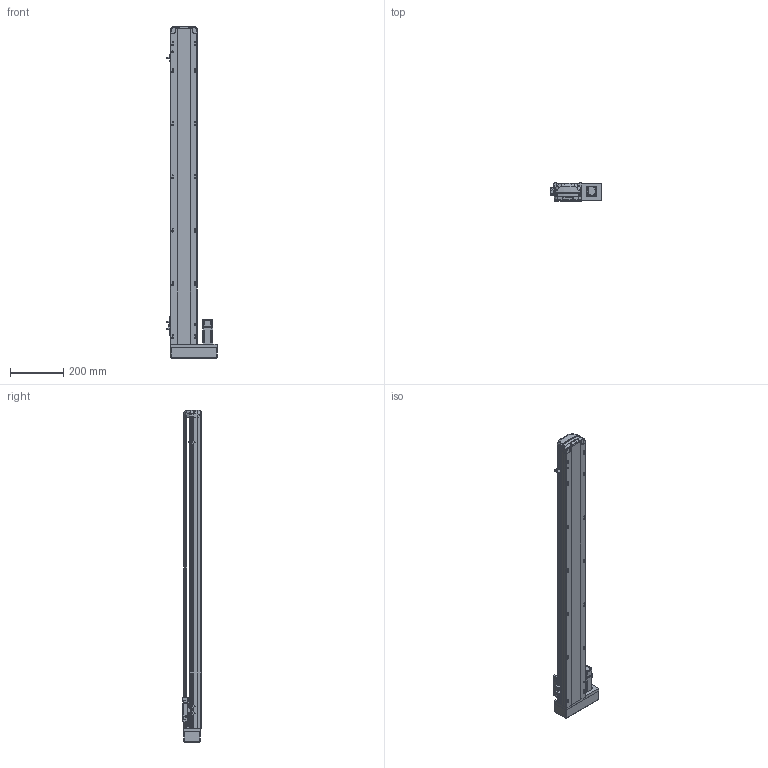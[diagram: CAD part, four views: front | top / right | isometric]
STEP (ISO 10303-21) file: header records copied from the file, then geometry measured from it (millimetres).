
FILE_DESCRIPTION (( 'STEP AP214' ), '1' );
FILE_NAME ('RTH10-XX-1000-R-M10-C4.STEP', '2025-10-25T05:57:30', ( 'Microsoft' ), ( 'Microsoft' ), 'SwSTEP 2.0', 'SolidWorks 2018', '' );
FILE_SCHEMA (( 'AUTOMOTIVE_DESIGN' ));
Length unit declared in the file: millimetre
Products named in the file (10): N_RTH12-M-007P-奻裔^RTH10-XX-100-R-M10-C4; N_P10^RTH10-XX-100-R-M10-C4; RTH10-XX-1000-R-M10-C4; N_RTH12-M-011P-臏倰第菁釱^RTH10-XX-100-R-M10-C4; N_RTH13-L-012覜茼え俋离^RTH10-XX-100-R-M10-C4; N_RTH12-GY-001P^RTH10-XX-100-R-M10-C4; N_RTH12-L-018-裔赽^RTH10-XX-100-R-M10-C4; N_RTH12-L-008萇儂啣^RTH10-XX-100-R-M10-C4; N_RTH12-GY-004-賑釱^RTH10-XX-100-R-M10-C4; N_OMRON EE-SX672 传感器^RTH10-XX-100-R-M10-C4
Assembly tree (11 placements, depth 2):
  RTH10-XX-1000-R-M10-C4
    N_RTH12-M-011P-臏倰第菁釱^RTH10-XX-100-R-M10-C4
    N_RTH13-L-012覜茼え俋离^RTH10-XX-100-R-M10-C4
    N_OMRON EE-SX672 传感器^RTH10-XX-100-R-M10-C4  x3
    N_P10^RTH10-XX-100-R-M10-C4
    N_RTH12-M-007P-奻裔^RTH10-XX-100-R-M10-C4
    N_RTH12-L-008萇儂啣^RTH10-XX-100-R-M10-C4
    N_RTH12-L-018-裔赽^RTH10-XX-100-R-M10-C4
    N_RTH12-GY-004-賑釱^RTH10-XX-100-R-M10-C4
    N_RTH12-GY-001P^RTH10-XX-100-R-M10-C4
Bounding box: 190 x 70 x 1247.31 mm (x, y, z)
Volume: 5212815.5 mm3; surface area: 791741.1 mm2
Topology: 10 solids, 12 shells, 1960 faces, 5488 edges, 3601 vertices
Faces by surface type: plane 955, cylinder 498, bspline 472, cone 29, sphere 4, torus 2
Entity records: 59392 total; most frequent: CARTESIAN_POINT 23529, ORIENTED_EDGE 8048, DIRECTION 6210, EDGE_CURVE 4030, VERTEX_POINT 2645, VECTOR 2094, LINE 2094, AXIS2_PLACEMENT_3D 2058
